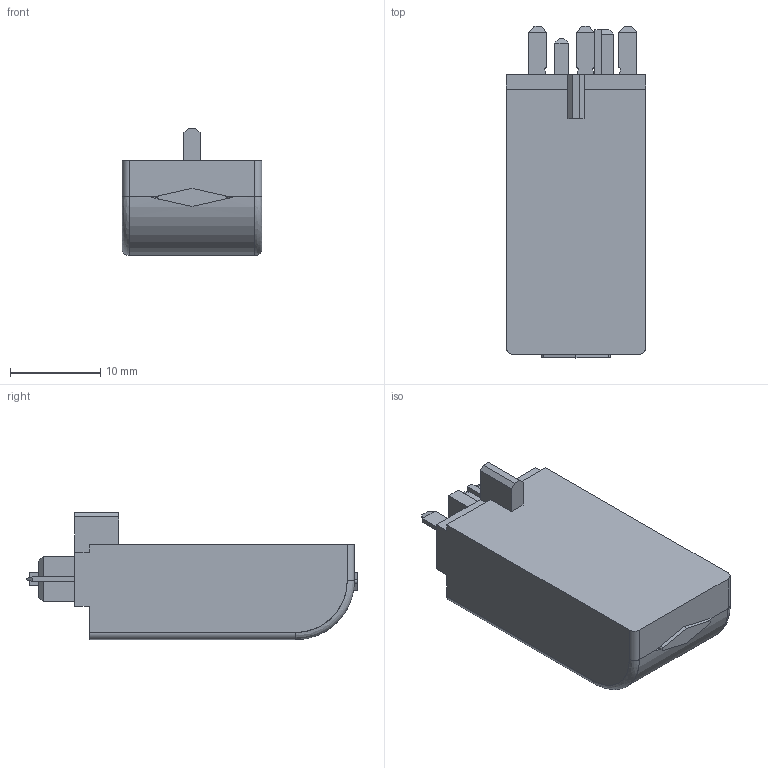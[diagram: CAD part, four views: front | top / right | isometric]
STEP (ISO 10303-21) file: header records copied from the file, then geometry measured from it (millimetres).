
FILE_DESCRIPTION(('STEP AP214'),'2;1');
FILE_NAME('C-9902 modulino con led---.stp','2009-11-12T16:25:22',(''),(''),'2007.1.106','THINKDESIGN','');
FILE_SCHEMA(('AUTOMOTIVE_DESIGN'));
Length unit declared in the file: millimetre
Products named in the file (1): None
Bounding box: 15.5 x 36.8 x 14.1 mm (x, y, z)
Surface area: 2055.4 mm2 (no closed solid volume)
Topology: 0 solids, 0 shells, 104 faces, 524 edges, 524 vertices
Faces by surface type: plane 70, bspline 23, cylinder 11
Entity records: 5552 total; most frequent: CARTESIAN_POINT 1793, DIRECTION 584, COMPOSITE_CURVE_SEGMENT 524, TRIMMED_CURVE 400, VECTOR 378, LINE 378, OUTER_BOUNDARY_CURVE 104, CURVE_BOUNDED_SURFACE 104
